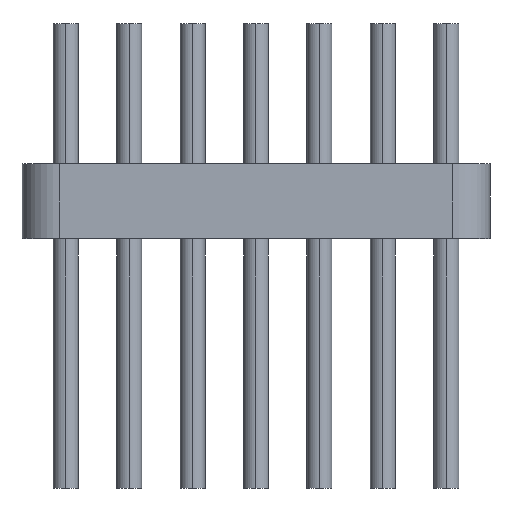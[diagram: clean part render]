
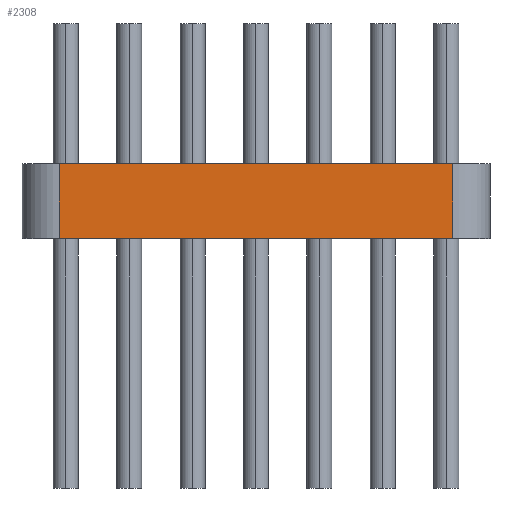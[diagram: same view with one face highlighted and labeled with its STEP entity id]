
A CAD part, top view. The second image highlights one B-rep face of the part: STEP entity #2308.
In plain terms, the highlighted planar face has unit normal (0, 0, 1).
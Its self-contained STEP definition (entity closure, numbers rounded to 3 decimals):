
#78 = ORIENTED_EDGE ( 'NONE', *, *, #769, .T. ) ;
#380 = DIRECTION ( 'NONE',  ( -1., 0., 0. ) ) ;
#391 = CARTESIAN_POINT ( 'NONE',  ( 0., 1.5, 0.75 ) ) ;
#483 = VECTOR ( 'NONE', #2410, 1000. ) ;
#527 = EDGE_CURVE ( 'NONE', #752, #2227, #2070, .T. ) ;
#548 = CARTESIAN_POINT ( 'NONE',  ( 7.87, 1.5, 0.75 ) ) ;
#574 = PLANE ( 'NONE',  #1709 ) ;
#585 = EDGE_CURVE ( 'NONE', #2227, #1395, #698, .T. ) ;
#686 = LINE ( 'NONE', #2019, #1767 ) ;
#698 = LINE ( 'NONE', #1869, #1691 ) ;
#752 = VERTEX_POINT ( 'NONE', #391 ) ;
#769 = EDGE_CURVE ( 'NONE', #752, #1527, #1165, .T. ) ;
#773 = DIRECTION ( 'NONE',  ( 0., 0., -1. ) ) ;
#797 = CARTESIAN_POINT ( 'NONE',  ( 0., 1.5, 0.75 ) ) ;
#872 = VECTOR ( 'NONE', #1743, 1000. ) ;
#935 = CARTESIAN_POINT ( 'NONE',  ( 0., 1.5, 0.75 ) ) ;
#1037 = ORIENTED_EDGE ( 'NONE', *, *, #1329, .T. ) ;
#1079 = DIRECTION ( 'NONE',  ( 1., 0., 0. ) ) ;
#1165 = LINE ( 'NONE', #935, #872 ) ;
#1210 = CARTESIAN_POINT ( 'NONE',  ( 7.87, 0., 0.75 ) ) ;
#1329 = EDGE_CURVE ( 'NONE', #1527, #1395, #686, .T. ) ;
#1395 = VERTEX_POINT ( 'NONE', #1210 ) ;
#1527 = VERTEX_POINT ( 'NONE', #1551 ) ;
#1551 = CARTESIAN_POINT ( 'NONE',  ( 0., 0., 0.75 ) ) ;
#1691 = VECTOR ( 'NONE', #2218, 1000. ) ;
#1709 = AXIS2_PLACEMENT_3D ( 'NONE', #797, #773, #380 ) ;
#1743 = DIRECTION ( 'NONE',  ( 0., -1., 0. ) ) ;
#1767 = VECTOR ( 'NONE', #1079, 1000. ) ;
#1869 = CARTESIAN_POINT ( 'NONE',  ( 7.87, 1.5, 0.75 ) ) ;
#1879 = CARTESIAN_POINT ( 'NONE',  ( 0., 1.5, 0.75 ) ) ;
#1991 = ORIENTED_EDGE ( 'NONE', *, *, #585, .F. ) ;
#2019 = CARTESIAN_POINT ( 'NONE',  ( 0., 0., 0.75 ) ) ;
#2070 = LINE ( 'NONE', #1879, #483 ) ;
#2084 = EDGE_LOOP ( 'NONE', ( #1037, #1991, #2508, #78 ) ) ;
#2218 = DIRECTION ( 'NONE',  ( 0., -1., 0. ) ) ;
#2227 = VERTEX_POINT ( 'NONE', #548 ) ;
#2308 = ADVANCED_FACE ( 'NONE', ( #2490 ), #574, .F. ) ;
#2410 = DIRECTION ( 'NONE',  ( 1., 0., 0. ) ) ;
#2490 = FACE_OUTER_BOUND ( 'NONE', #2084, .T. ) ;
#2508 = ORIENTED_EDGE ( 'NONE', *, *, #527, .F. ) ;
